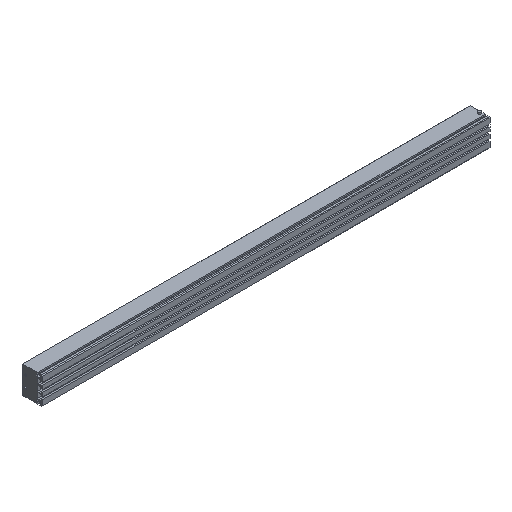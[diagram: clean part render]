
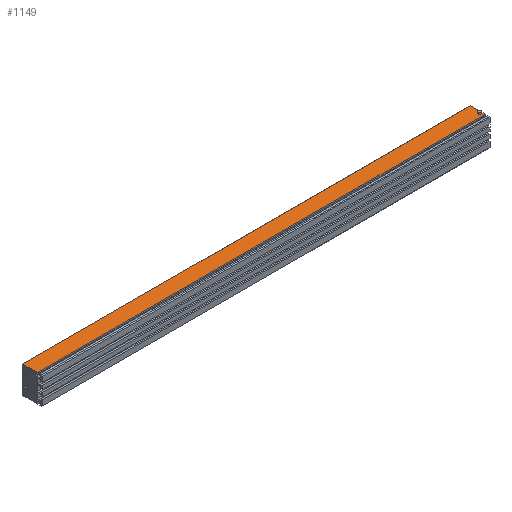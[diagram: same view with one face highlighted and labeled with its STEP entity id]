
A CAD part, isometric view. The second image highlights one B-rep face of the part: STEP entity #1149.
In plain terms, the highlighted planar face has unit normal (0, 0, 1).
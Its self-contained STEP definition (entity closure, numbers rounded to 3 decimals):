
#36 = VERTEX_POINT ( 'NONE', #416 ) ;
#42 = DIRECTION ( 'NONE',  ( 1., 0., 0. ) ) ;
#89 = VECTOR ( 'NONE', #199, 1000. ) ;
#199 = DIRECTION ( 'NONE',  ( 0., -1., 0. ) ) ;
#214 = VERTEX_POINT ( 'NONE', #454 ) ;
#350 = VECTOR ( 'NONE', #924, 1000. ) ;
#368 = CARTESIAN_POINT ( 'NONE',  ( 610., 0., 0. ) ) ;
#372 = ORIENTED_EDGE ( 'NONE', *, *, #1840, .F. ) ;
#416 = CARTESIAN_POINT ( 'NONE',  ( 609., 11.392, 0. ) ) ;
#454 = CARTESIAN_POINT ( 'NONE',  ( 0., 26.7, 0. ) ) ;
#455 = CARTESIAN_POINT ( 'NONE',  ( 0., 6.6, 0. ) ) ;
#502 = CARTESIAN_POINT ( 'NONE',  ( 610., 6.6, 0. ) ) ;
#539 = EDGE_CURVE ( 'NONE', #214, #667, #970, .T. ) ;
#546 = LINE ( 'NONE', #1810, #89 ) ;
#552 = DIRECTION ( 'NONE',  ( -1., 0., 0. ) ) ;
#559 = CARTESIAN_POINT ( 'NONE',  ( 0., 0., 0. ) ) ;
#560 = CARTESIAN_POINT ( 'NONE',  ( 610., 26.7, 0. ) ) ;
#561 = EDGE_CURVE ( 'NONE', #2165, #817, #546, .T. ) ;
#608 = ORIENTED_EDGE ( 'NONE', *, *, #1152, .T. ) ;
#667 = VERTEX_POINT ( 'NONE', #455 ) ;
#695 = CIRCLE ( 'NONE', #1844, 1.85 ) ;
#702 = DIRECTION ( 'NONE',  ( -1., 0., 0. ) ) ;
#703 = LINE ( 'NONE', #560, #350 ) ;
#728 = PLANE ( 'NONE',  #1656 ) ;
#733 = DIRECTION ( 'NONE',  ( 0., 0., -1. ) ) ;
#750 = VERTEX_POINT ( 'NONE', #2226 ) ;
#817 = VERTEX_POINT ( 'NONE', #502 ) ;
#924 = DIRECTION ( 'NONE',  ( -1., 0., 0. ) ) ;
#939 = VECTOR ( 'NONE', #42, 1000. ) ;
#957 = EDGE_CURVE ( 'NONE', #750, #36, #1059, .T. ) ;
#965 = ORIENTED_EDGE ( 'NONE', *, *, #561, .F. ) ;
#970 = LINE ( 'NONE', #559, #1027 ) ;
#1003 = FACE_OUTER_BOUND ( 'NONE', #1938, .T. ) ;
#1027 = VECTOR ( 'NONE', #1983, 1000. ) ;
#1059 = CIRCLE ( 'NONE', #1985, 1.85 ) ;
#1067 = ORIENTED_EDGE ( 'NONE', *, *, #2235, .T. ) ;
#1149 = ADVANCED_FACE ( 'NONE', ( #2188, #1003 ), #728, .F. ) ;
#1152 = EDGE_CURVE ( 'NONE', #2165, #214, #703, .T. ) ;
#1164 = DIRECTION ( 'NONE',  ( 0., 0., 1. ) ) ;
#1489 = CARTESIAN_POINT ( 'NONE',  ( 0., 6.6, 0. ) ) ;
#1521 = ORIENTED_EDGE ( 'NONE', *, *, #539, .T. ) ;
#1578 = DIRECTION ( 'NONE',  ( 0., 0., 1. ) ) ;
#1646 = EDGE_LOOP ( 'NONE', ( #1921, #372 ) ) ;
#1656 = AXIS2_PLACEMENT_3D ( 'NONE', #368, #733, #552 ) ;
#1810 = CARTESIAN_POINT ( 'NONE',  ( 610., 0., 0. ) ) ;
#1840 = EDGE_CURVE ( 'NONE', #36, #750, #695, .T. ) ;
#1844 = AXIS2_PLACEMENT_3D ( 'NONE', #1875, #1164, #2237 ) ;
#1875 = CARTESIAN_POINT ( 'NONE',  ( 607.15, 11.392, 0. ) ) ;
#1921 = ORIENTED_EDGE ( 'NONE', *, *, #957, .F. ) ;
#1938 = EDGE_LOOP ( 'NONE', ( #965, #608, #1521, #1067 ) ) ;
#1983 = DIRECTION ( 'NONE',  ( 0., -1., 0. ) ) ;
#1985 = AXIS2_PLACEMENT_3D ( 'NONE', #2102, #1578, #702 ) ;
#1988 = CARTESIAN_POINT ( 'NONE',  ( 610., 26.7, 0. ) ) ;
#2102 = CARTESIAN_POINT ( 'NONE',  ( 607.15, 11.392, 0. ) ) ;
#2165 = VERTEX_POINT ( 'NONE', #1988 ) ;
#2188 = FACE_BOUND ( 'NONE', #1646, .T. ) ;
#2226 = CARTESIAN_POINT ( 'NONE',  ( 605.3, 11.392, 0. ) ) ;
#2235 = EDGE_CURVE ( 'NONE', #667, #817, #2297, .T. ) ;
#2237 = DIRECTION ( 'NONE',  ( -1., 0., 0. ) ) ;
#2297 = LINE ( 'NONE', #1489, #939 ) ;
